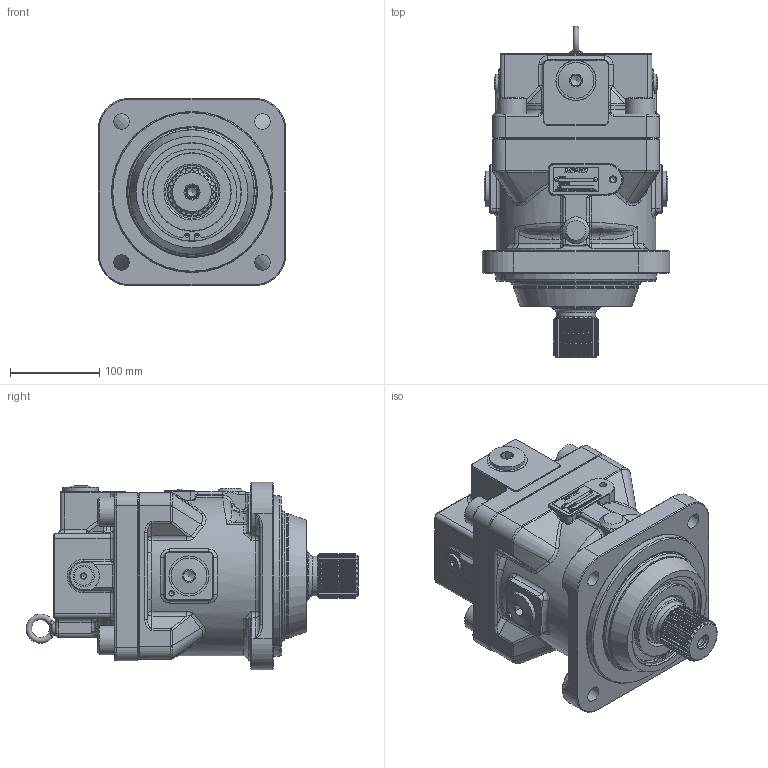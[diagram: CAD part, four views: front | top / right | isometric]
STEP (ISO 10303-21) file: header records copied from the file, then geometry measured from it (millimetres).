
FILE_DESCRIPTION(/* description */ (''),/* implementation_level */ '2;1');
FILE_NAME(/* name */ 'O:\80_個人\10_入業者\林\\X2\63D051FA30C730FC30BF\X0\\2020年度\2020.10.22-M7X160\X2\591689B3\X0\-第三回\M7X160AC48.stp',/* time_stamp */ '2020-10-22T11:22:15+09:00',/* author */ ('PG14415'),/* organization */ (''),/* preprocessor_version */ 'ST-DEVELOPER v16.5',/* originating_system */ 'Autodesk Inventor 2017',/* authorisation */ '');
FILE_SCHEMA (('AUTOMOTIVE_DESIGN { 1 0 10303 214 3 1 1 }'));
Products named in the file (1): Part3
Bounding box: 210 x 372.27 x 210 mm (x, y, z)
Volume: 7730784.5 mm3; surface area: 346790.9 mm2
Topology: 1 solids, 11 shells, 1693 faces, 4265 edges, 2688 vertices
Faces by surface type: plane 832, cylinder 375, bspline 265, cone 129, torus 67, sphere 25
Full cylindrical faces by diameter (mm): 2.13 x2, 2.2 x4, 2.5 x2, 3 x2, 5 x2, 6 x3, 6.647 x1, 6.8 x1, 8 x3, 10.106 x1, 11.835 x8, 12 x1, 14 x9, 17.5 x4, 21 x2, 22 x4, 24 x6, 32 x2, 33 x4, 35 x4, 40 x3, 44.6 x1, 45 x3, 55 x1, 59 x1, 86 x1, 88 x1, 110 x1, 114 x1, 140 x1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
Entity records: 57283 total; most frequent: CARTESIAN_POINT 17033, ORIENTED_EDGE 8072, DIRECTION 7484, EDGE_CURVE 4036, AXIS2_PLACEMENT_3D 2625, VERTEX_POINT 2617, LINE 2234, VECTOR 2234
